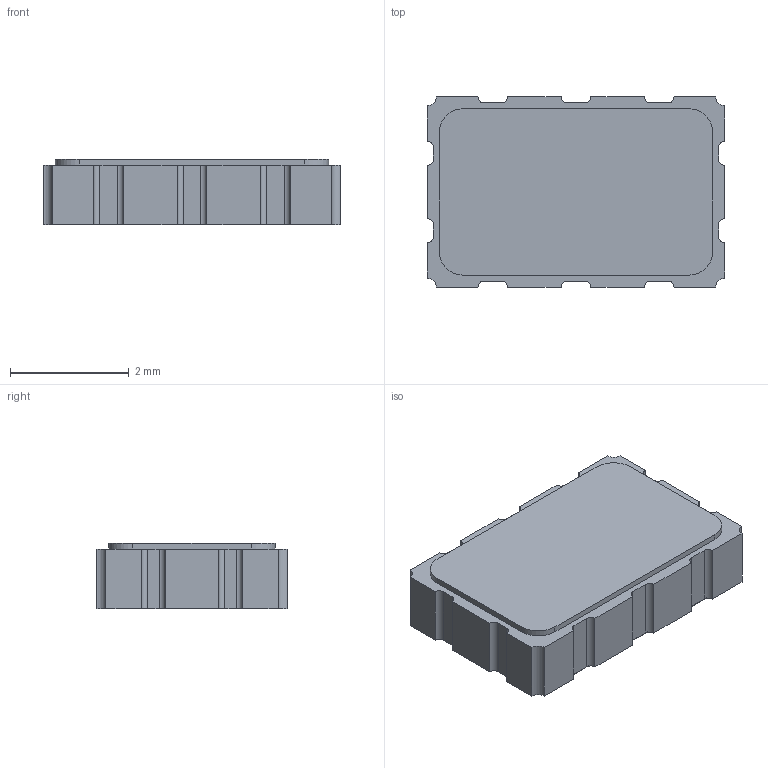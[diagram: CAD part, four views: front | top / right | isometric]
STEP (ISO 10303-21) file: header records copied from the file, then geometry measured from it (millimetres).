
FILE_DESCRIPTION(('FreeCAD Model'),'2;1');
FILE_NAME('Open CASCADE Shape Model','2022-08-10T13:30:51',(''),(''), 'Open CASCADE STEP processor 7.6','FreeCAD','Unknown');
FILE_SCHEMA(('AUTOMOTIVE_DESIGN { 1 0 10303 214 1 1 1 1 }'));
Length unit declared in the file: millimetre
Products named in the file (1): Body
Bounding box: 5 x 3.2 x 1.1 mm (x, y, z)
Volume: 16.8 mm3; surface area: 49.8 mm2
Topology: 1 solids, 1 shells, 90 faces, 249 edges, 162 vertices
Faces by surface type: plane 62, cylinder 28
Entity records: 6148 total; most frequent: CARTESIAN_POINT 1072, DIRECTION 973, LINE 635, VECTOR 635, ORIENTED_EDGE 498, PCURVE 498, DEFINITIONAL_REPRESENTATION 498, EDGE_CURVE 249
